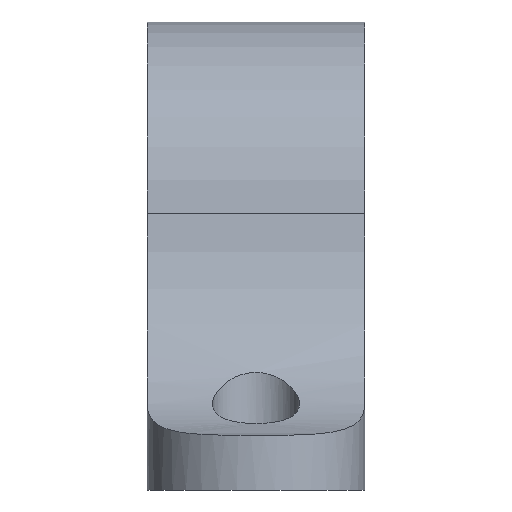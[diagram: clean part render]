
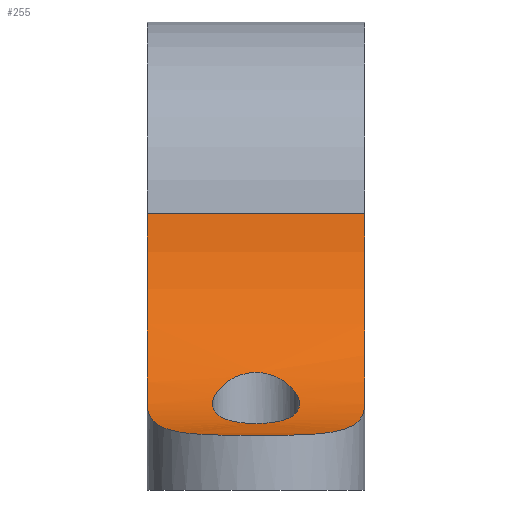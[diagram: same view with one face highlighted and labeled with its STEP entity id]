
A CAD part, left-side view. The second image highlights one B-rep face of the part: STEP entity #255.
In plain terms, the highlighted cylindrical face has radius 22 mm (diameter 44 mm), a partial arc.
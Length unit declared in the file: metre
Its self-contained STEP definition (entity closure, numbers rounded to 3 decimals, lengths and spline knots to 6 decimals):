
#20=B_SPLINE_CURVE_WITH_KNOTS('',3,(#448,#449,#450,#451,#452,#453,#454,
#455,#456,#457,#458,#459),.UNSPECIFIED.,.F.,.F.,(4,1,1,1,1,1,1,1,1,4),(0.,
0.002013,0.004025,0.00805,0.012076,
0.016101,0.020126,0.024151,0.028176,
0.032202),.UNSPECIFIED.);
#21=B_SPLINE_CURVE_WITH_KNOTS('',3,(#488,#489,#490,#491,#492,#493,#494,
#495,#496,#497,#498,#499,#500,#501,#502,#503,#504,#505,#506),
 .UNSPECIFIED.,.T.,.F.,(1,1,1,1,1,1,1,1,1,1,1,1,1,1,1,1,1,1,1,1,1,1,1),
(-0.005087,-0.003391,-0.001696,0.,
0.001696,0.003391,0.005087,0.006782,
0.008478,0.010173,0.011869,0.013564,
0.01526,0.016955,0.018651,0.020346,
0.022042,0.023737,0.025433,0.027128,
0.028824,0.03052,0.032215),.UNSPECIFIED.);
#29=LINE('',#483,#37);
#37=VECTOR('',#365,1.);
#81=ORIENTED_EDGE('',*,*,#124,.T.);
#82=ORIENTED_EDGE('',*,*,#122,.F.);
#83=ORIENTED_EDGE('',*,*,#105,.F.);
#84=ORIENTED_EDGE('',*,*,#111,.F.);
#85=ORIENTED_EDGE('',*,*,#115,.F.);
#105=EDGE_CURVE('',#135,#136,#154,.T.);
#111=EDGE_CURVE('',#139,#135,#20,.T.);
#115=EDGE_CURVE('',#141,#139,#159,.F.);
#122=EDGE_CURVE('',#136,#141,#29,.T.);
#124=EDGE_CURVE('',#148,#148,#21,.T.);
#135=VERTEX_POINT('',#436);
#136=VERTEX_POINT('',#438);
#139=VERTEX_POINT('',#447);
#141=VERTEX_POINT('',#465);
#148=VERTEX_POINT('',#507);
#154=CIRCLE('',#279,0.022);
#159=CIRCLE('',#286,0.022);
#188=EDGE_LOOP('',(#81));
#189=EDGE_LOOP('',(#82,#83,#84,#85));
#220=FACE_BOUND('',#188,.T.);
#221=FACE_BOUND('',#189,.T.);
#241=CYLINDRICAL_SURFACE('',#300,0.022);
#255=ADVANCED_FACE('',(#220,#221),#241,.F.);
#279=AXIS2_PLACEMENT_3D('',#437,#323,#324);
#286=AXIS2_PLACEMENT_3D('',#466,#341,#342);
#300=AXIS2_PLACEMENT_3D('',#487,#370,#371);
#323=DIRECTION('',(0.,-1.,0.));
#324=DIRECTION('',(0.,0.,-1.));
#341=DIRECTION('',(0.,-1.,0.));
#342=DIRECTION('',(0.,0.,-1.));
#365=DIRECTION('',(0.,-1.,0.));
#370=DIRECTION('',(0.,-1.,0.));
#371=DIRECTION('',(0.,0.,-1.));
#436=CARTESIAN_POINT('',(-0.03,0.01,0.007884));
#437=CARTESIAN_POINT('',(-0.04089,0.01,0.027));
#438=CARTESIAN_POINT('',(-0.018949,0.01,0.02539));
#447=CARTESIAN_POINT('',(-0.03,-0.01,0.007884));
#448=CARTESIAN_POINT('',(-0.03,-0.01,0.007884));
#449=CARTESIAN_POINT('',(-0.03059,-0.01,0.007548));
#450=CARTESIAN_POINT('',(-0.031782,-0.009897,0.006941));
#451=CARTESIAN_POINT('',(-0.034233,-0.00922,0.00596));
#452=CARTESIAN_POINT('',(-0.037086,-0.007438,0.005262));
#453=CARTESIAN_POINT('',(-0.039445,-0.004051,0.00503));
#454=CARTESIAN_POINT('',(-0.040276,-0.00001,0.005012));
#455=CARTESIAN_POINT('',(-0.03945,0.00404,0.00503));
#456=CARTESIAN_POINT('',(-0.037097,0.00743,0.00526));
#457=CARTESIAN_POINT('',(-0.033664,0.009575,0.0061));
#458=CARTESIAN_POINT('',(-0.031182,0.01,0.007211));
#459=CARTESIAN_POINT('',(-0.03,0.01,0.007884));
#465=CARTESIAN_POINT('',(-0.018949,-0.01,0.02539));
#466=CARTESIAN_POINT('',(-0.04089,-0.01,0.027));
#483=CARTESIAN_POINT('',(-0.018949,0.010002,0.02539));
#487=CARTESIAN_POINT('',(-0.04089,0.010002,0.027));
#488=CARTESIAN_POINT('',(-0.033751,-0.001707,0.006186));
#489=CARTESIAN_POINT('',(-0.034124,0.000001,0.006067));
#490=CARTESIAN_POINT('',(-0.033752,0.001705,0.006186));
#491=CARTESIAN_POINT('',(-0.032736,0.003071,0.006552));
#492=CARTESIAN_POINT('',(-0.031324,0.003882,0.007165));
#493=CARTESIAN_POINT('',(-0.029805,0.004086,0.00797));
#494=CARTESIAN_POINT('',(-0.02838,0.00375,0.008879));
#495=CARTESIAN_POINT('',(-0.027167,0.002949,0.009786));
#496=CARTESIAN_POINT('',(-0.026254,0.001692,0.010567));
#497=CARTESIAN_POINT('',(-0.025872,0.000005,0.010924));
#498=CARTESIAN_POINT('',(-0.026256,-0.001698,0.010565));
#499=CARTESIAN_POINT('',(-0.027168,-0.00295,0.009785));
#500=CARTESIAN_POINT('',(-0.028388,-0.003755,0.008873));
#501=CARTESIAN_POINT('',(-0.029812,-0.004086,0.007967));
#502=CARTESIAN_POINT('',(-0.031325,-0.003881,0.007165));
#503=CARTESIAN_POINT('',(-0.032732,-0.003074,0.006554));
#504=CARTESIAN_POINT('',(-0.033751,-0.001707,0.006186));
#505=CARTESIAN_POINT('',(-0.034124,0.000001,0.006067));
#506=CARTESIAN_POINT('',(-0.033752,0.001705,0.006186));
#507=CARTESIAN_POINT('',(-0.034,0.,0.006107));
